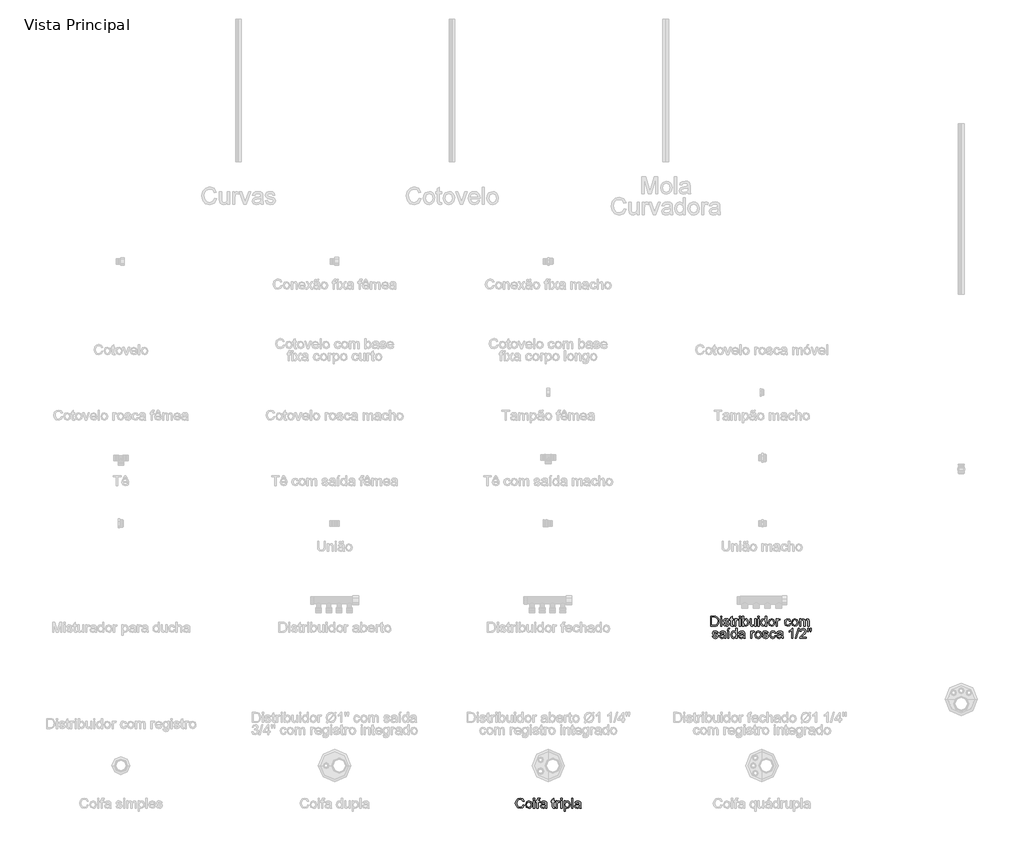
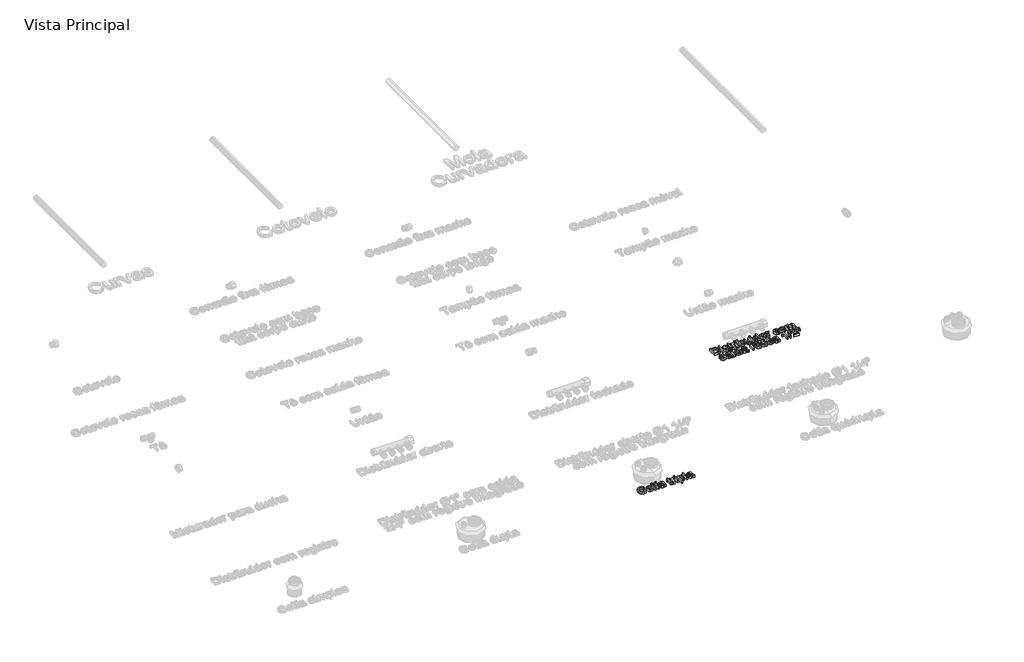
# One storey, part 8 of 12: 2 proxies.
"""IFC4 building model written with IfcOpenShell, lengths in millimetres."""

from ifc_helpers import new_model, si_unit, origin, origin_with_axes, place, context, project, spatial, polyline, outline, extrude, element, save

model = new_model("IFC4")

# Units and contexts
model_context = context("Model", 3, world=origin())
ifc_project = project(units=[si_unit("LENGTHUNIT", "METRE", prefix="MILLI")], contexts=[model_context])

# Site, building, storey
site = spatial("IfcSite", under=ifc_project)
building = spatial("IfcBuilding", under=site)
storey = spatial("IfcBuildingStorey", under=building, Name="Vista Principal", Elevation=0.0)

# Proxies
placement = place(None, origin())
element("IfcBuildingElementProxy", 1, Name="Legenda", ObjectType="Legenda", at=placement, inside=storey, context=model_context, shape_type="SweptSolid", body=[
    extrude(outline(polyline([(989.4929471, -1210.4212496), (989.4929471, -1175.261541), (1001.6220165, -1175.261541), (1007.896857, -1175.7679919), (1013.0643728, -1178.2830785), (1017.2275707, -1184.2918177), (1018.6095807, -1192.6525492), (1017.6739342, -1199.7471535), (1015.2704385, -1204.8674577), (1012.060055, -1208.0563815), (1007.8582294, -1209.8203756), (1002.2057226, -1210.4212496), (989.4929471, -1210.4212496)]), holes=[polyline([(993.8879107, -1206.026286), (1001.664936, -1206.026286), (1007.3217349, -1205.3910764), (1010.5836219, -1203.5970385), (1013.2575109, -1199.2321187), (1014.2146172, -1192.5838779), (1012.3390321, -1184.2574821), (1007.7766823, -1180.3603855), (1001.5447613, -1179.6565046), (993.8879107, -1179.6565046), (993.8879107, -1206.026286)])]), origin_with_axes(), (0.0, 0.0, 1.0), 10.0),
    extrude(outline(polyline([(1024.1032852, -1210.4212496), (1024.1032852, -1184.6008386), (1028.4982488, -1184.6008386), (1028.4982488, -1210.4212496), (1024.1032852, -1210.4212496)])), origin_with_axes(), (0.0, 0.0, 1.0), 10.0),
    extrude(outline(polyline([(1024.1032852, -1179.6565046), (1024.1032852, -1175.261541), (1028.4982488, -1175.261541), (1028.4982488, -1179.6565046), (1024.1032852, -1179.6565046)])), origin_with_axes(), (0.0, 0.0, 1.0), 10.0),
    extrude(outline(polyline([(1033.4425828, -1202.7300633), (1037.8375464, -1202.1806929), (1039.8719338, -1205.4425799), (1044.5329987, -1206.5756564), (1049.0138014, -1205.5370029), (1050.4730666, -1203.0991716), (1049.0052175, -1201.1248715), (1044.4814952, -1199.8716202), (1037.8632981, -1197.7213499), (1034.9748113, -1195.2105553), (1033.9919532, -1191.6653992), (1034.7816733, -1188.3906363), (1036.9362355, -1185.8884256), (1039.7302992, -1184.5879627), (1043.511513, -1184.0514681), (1048.8592909, -1184.9141514), (1052.2585206, -1187.2489758), (1053.7692893, -1191.1932839), (1049.3743257, -1191.7426544), (1047.7219224, -1189.3176989), (1043.8548695, -1188.4464317), (1039.648752, -1189.2790713), (1038.3869168, -1191.2190357), (1040.5500629, -1193.4680209), (1044.3355687, -1194.4036675), (1050.7863795, -1196.4723906), (1053.7821652, -1198.8157989), (1054.8680302, -1202.6356403), (1053.5933191, -1206.8417577), (1049.9151123, -1209.8933389), (1044.4729113, -1210.97062), (1036.8074768, -1208.893313), (1033.4425828, -1202.7300633)])), origin_with_axes(), (0.0, 0.0, 1.0), 10.0),
    extrude(outline(polyline([(1069.1516618, -1206.7559186), (1069.7010322, -1210.5500083), (1066.4133935, -1210.97062), (1062.7308947, -1210.2409874), (1060.8939373, -1208.3267747), (1060.3617346, -1203.3395212), (1060.3617346, -1188.9958022), (1057.065512, -1188.9958022), (1057.065512, -1184.6008386), (1060.3617346, -1184.6008386), (1060.3617346, -1178.325998), (1064.7566982, -1175.7422401), (1064.7566982, -1184.6008386), (1069.1516618, -1184.6008386), (1069.1516618, -1188.9958022), (1064.7566982, -1188.9958022), (1064.7566982, -1203.2107625), (1064.9884639, -1205.4769155), (1069.1516618, -1206.7559186)])), origin_with_axes(), (0.0, 0.0, 1.0), 10.0),
    extrude(outline(polyline([(1073.5466254, -1210.4212496), (1073.5466254, -1184.6008386), (1077.3922185, -1184.6008386), (1077.3922185, -1188.42068), (1080.1219029, -1184.9012756), (1082.8687551, -1184.0514681), (1087.2808865, -1185.4077264), (1085.8130373, -1189.3477426), (1082.7228286, -1188.4464317), (1080.2377857, -1189.3134069), (1078.6540537, -1191.7169027), (1077.9415889, -1196.8500828), (1077.9415889, -1210.4212496), (1073.5466254, -1210.4212496)])), origin_with_axes(), (0.0, 0.0, 1.0), 10.0),
    extrude(outline(polyline([(1090.0277387, -1210.4212496), (1090.0277387, -1184.6008386), (1094.4227023, -1184.6008386), (1094.4227023, -1210.4212496), (1090.0277387, -1210.4212496)])), origin_with_axes(), (0.0, 0.0, 1.0), 10.0),
    extrude(outline(polyline([(1090.0277387, -1179.6565046), (1090.0277387, -1175.261541), (1094.4227023, -1175.261541), (1094.4227023, -1179.6565046), (1090.0277387, -1179.6565046)])), origin_with_axes(), (0.0, 0.0, 1.0), 10.0),
    extrude(outline(polyline([(1105.4101112, -1210.4212496), (1101.0151477, -1210.4212496), (1101.0151477, -1175.261541), (1105.4101112, -1175.261541), (1105.4101112, -1188.3005052), (1112.3115775, -1184.0514681), (1116.7151249, -1185.0085745), (1120.1315224, -1187.6996313), (1122.2302892, -1191.884289), (1122.9899655, -1197.124768), (1119.8439613, -1207.3567925), (1112.2858257, -1210.97062), (1105.4101112, -1206.3095551), (1105.4101112, -1210.4212496)]), holes=[polyline([(1105.4101112, -1197.3307819), (1106.6118591, -1203.4768638), (1111.9081335, -1206.5756564), (1116.612118, -1204.2923355), (1118.5950019, -1197.4852923), (1116.6936652, -1190.6524974), (1112.0969796, -1188.4464317), (1107.3929952, -1190.7297526), (1105.4101112, -1197.3307819)])]), origin_with_axes(), (0.0, 0.0, 1.0), 10.0),
    extrude(outline(polyline([(1144.4154129, -1210.4212496), (1144.4154129, -1205.9833664), (1136.4838771, -1210.97062), (1132.3507229, -1210.0950609), (1129.5008637, -1207.8975791), (1128.1918169, -1204.6614438), (1127.9342995, -1200.5755011), (1127.9342995, -1184.6008386), (1132.3292631, -1184.6008386), (1132.3292631, -1198.506778), (1132.5953644, -1202.9875807), (1134.3336068, -1205.6185501), (1137.6083697, -1206.5756564), (1141.2779926, -1205.5970903), (1143.7029481, -1202.9317853), (1144.4154129, -1198.0346628), (1144.4154129, -1184.6008386), (1148.8103765, -1184.6008386), (1148.8103765, -1210.4212496), (1144.4154129, -1210.4212496)])), origin_with_axes(), (0.0, 0.0, 1.0), 10.0),
    extrude(outline(polyline([(1154.8534514, -1210.4212496), (1154.8534514, -1184.6008386), (1159.248415, -1184.6008386), (1159.248415, -1210.4212496), (1154.8534514, -1210.4212496)])), origin_with_axes(), (0.0, 0.0, 1.0), 10.0),
    extrude(outline(polyline([(1154.8534514, -1179.6565046), (1154.8534514, -1175.261541), (1159.248415, -1175.261541), (1159.248415, -1179.6565046), (1154.8534514, -1179.6565046)])), origin_with_axes(), (0.0, 0.0, 1.0), 10.0),
    extrude(outline(polyline([(1181.7726032, -1210.4212496), (1181.7726032, -1206.2752195), (1174.8453853, -1210.97062), (1169.4031843, -1209.2710052), (1165.5575912, -1204.5283931), (1164.192749, -1197.5367958), (1165.4502923, -1190.5409065), (1169.2186302, -1185.7253312), (1174.8282174, -1184.0514681), (1178.8798245, -1185.248924), (1181.7726032, -1188.3605926), (1181.7726032, -1175.261541), (1186.1675668, -1175.261541), (1186.1675668, -1210.4212496), (1181.7726032, -1210.4212496)]), holes=[polyline([(1168.5877125, -1197.519628), (1170.5705965, -1204.3223792), (1175.2488292, -1206.5756564), (1179.8712665, -1204.4253862), (1181.7726032, -1197.8544006), (1179.8369308, -1190.7211687), (1175.068567, -1188.4464317), (1170.4418378, -1190.6310376), (1168.5877125, -1197.519628)])]), origin_with_axes(), (0.0, 0.0, 1.0), 10.0),
    extrude(outline(polyline([(1191.6612713, -1197.5110441), (1195.4639448, -1186.9099112), (1203.2066346, -1184.0514681), (1211.5115706, -1187.532245), (1214.73483, -1197.1505197), (1213.3099004, -1204.9704647), (1209.1595784, -1209.3954719), (1203.2066346, -1210.97062), (1194.850195, -1207.5027191), (1191.6612713, -1197.5110441)]), holes=[polyline([(1196.0562348, -1197.5024602), (1198.0906223, -1204.3137953), (1203.2066346, -1206.5756564), (1208.305479, -1204.3009194), (1210.3398664, -1197.3651176), (1208.2926031, -1190.7082928), (1203.2066346, -1188.4464317), (1198.0906223, -1190.6997089), (1196.0562348, -1197.5024602)])]), origin_with_axes(), (0.0, 0.0, 1.0), 10.0),
    extrude(outline(polyline([(1219.679164, -1210.4212496), (1219.679164, -1184.6008386), (1223.5247572, -1184.6008386), (1223.5247572, -1188.42068), (1226.2544416, -1184.9012756), (1229.0012938, -1184.0514681), (1233.4134252, -1185.4077264), (1231.945576, -1189.3477426), (1228.8553673, -1188.4464317), (1226.3703244, -1189.3134069), (1224.7865924, -1191.7169027), (1224.0741276, -1196.8500828), (1224.0741276, -1210.4212496), (1219.679164, -1210.4212496)])), origin_with_axes(), (0.0, 0.0, 1.0), 10.0),
    extrude(outline(polyline([(1266.3756519, -1201.081952), (1270.7706155, -1201.6313224), (1267.2426272, -1208.494161), (1260.2724896, -1210.97062), (1251.9418019, -1207.5155949), (1248.7957977, -1197.6054671), (1250.1391801, -1190.3048489), (1254.2337067, -1185.6137404), (1260.2124023, -1184.0514681), (1266.8949787, -1186.1974464), (1270.2212451, -1192.2920248), (1265.8262815, -1192.8413953), (1263.7876021, -1189.5494646), (1260.2467379, -1188.4464317), (1255.1521854, -1190.6181618), (1253.1907612, -1197.4852923), (1255.1092658, -1204.4168023), (1260.1265631, -1206.5756564), (1264.2683013, -1205.2279821), (1266.3756519, -1201.081952)])), origin_with_axes(), (0.0, 0.0, 1.0), 10.0),
    extrude(outline(polyline([(1273.5174677, -1197.5110441), (1277.3201413, -1186.9099112), (1285.062831, -1184.0514681), (1293.3677671, -1187.532245), (1296.5910265, -1197.1505197), (1295.1660969, -1204.9704647), (1291.0157748, -1209.3954719), (1285.062831, -1210.97062), (1276.7063915, -1207.5027191), (1273.5174677, -1197.5110441)]), holes=[polyline([(1277.9124313, -1197.5024602), (1279.9468188, -1204.3137953), (1285.062831, -1206.5756564), (1290.1616755, -1204.3009194), (1292.1960629, -1197.3651176), (1290.1487996, -1190.7082928), (1285.062831, -1188.4464317), (1279.9468188, -1190.6997089), (1277.9124313, -1197.5024602)])]), origin_with_axes(), (0.0, 0.0, 1.0), 10.0),
    extrude(outline(polyline([(1301.5353605, -1210.4212496), (1301.5353605, -1184.6008386), (1305.9303241, -1184.6008386), (1305.9303241, -1188.8498756), (1308.9518615, -1185.3690988), (1313.252402, -1184.0514681), (1317.6559495, -1185.3948506), (1320.0766131, -1189.1588965), (1327.8364706, -1184.0514681), (1333.5834005, -1186.1759867), (1335.5963282, -1192.7212205), (1335.5963282, -1210.4212496), (1331.2013646, -1210.4212496), (1331.2013646, -1194.6096814), (1330.7936287, -1190.9400585), (1329.3171956, -1189.1331448), (1326.806401, -1188.4464317), (1322.4844007, -1190.2061339), (1320.7633261, -1195.8457649), (1320.7633261, -1210.4212496), (1316.3683625, -1210.4212496), (1316.3683625, -1194.1203984), (1315.3511688, -1189.8627774), (1312.0163185, -1188.4464317), (1308.7630154, -1189.3906622), (1306.5998693, -1192.1546822), (1305.9303241, -1197.3994532), (1305.9303241, -1210.4212496), (1301.5353605, -1210.4212496)])), origin_with_axes(), (0.0, 0.0, 1.0), 10.0),
    extrude(outline(polyline([(994.9866516, -1245.4212496), (999.3816151, -1244.8718791), (1001.4160026, -1248.1337661), (1006.0770674, -1249.2668427), (1010.5578701, -1248.2281892), (1012.0171354, -1245.7903578), (1010.5492862, -1243.8160578), (1006.025564, -1242.5628065), (999.4073669, -1240.4125362), (996.5188801, -1237.9017416), (995.536022, -1234.3565854), (996.325742, -1231.0818225), (998.4803042, -1228.5796118), (1001.274368, -1227.279149), (1005.0555818, -1226.7426544), (1010.4033597, -1227.6053377), (1013.8025893, -1229.9401621), (1015.3133581, -1233.8844702), (1010.9183945, -1234.4338406), (1009.2659912, -1232.0088852), (1005.3989383, -1231.137618), (1001.1928208, -1231.9702575), (999.9309856, -1233.9102219), (1002.0941317, -1236.1592072), (1005.8796374, -1237.0948537), (1012.3304482, -1239.1635768), (1015.3262339, -1241.5069851), (1016.412099, -1245.3268265), (1015.1373878, -1249.532944), (1011.459181, -1252.5845251), (1006.01698, -1253.6618063), (998.3515455, -1251.5844993), (994.9866516, -1245.4212496)])), origin_with_axes(), (0.0, 0.0, 1.0), 10.0),
    extrude(outline(polyline([(1037.8375464, -1249.8162131), (1033.5756334, -1252.794831), (1028.867357, -1253.6618063), (1022.4852176, -1251.5759153), (1020.2576921, -1246.2453052), (1021.0989156, -1242.7688204), (1023.3092732, -1240.2451499), (1026.3866061, -1238.8030525), (1030.1892797, -1238.1420911), (1037.8117946, -1236.6313224), (1036.6272146, -1232.4080371), (1031.7687197, -1231.137618), (1027.3222527, -1231.9831334), (1025.2020261, -1234.9832111), (1020.8070625, -1234.4338406), (1022.7083993, -1230.141884), (1026.5368246, -1227.6267975), (1032.335258, -1226.7426544), (1037.6615761, -1227.5237905), (1040.6702377, -1229.4852147), (1042.0179121, -1232.4681245), (1042.2325099, -1236.3137176), (1042.2325099, -1241.7816704), (1042.4556917, -1249.4170612), (1043.3312508, -1253.1124358), (1038.9362873, -1253.1124358), (1037.8375464, -1249.8162131)]), holes=[polyline([(1037.8246705, -1241.6486197), (1030.747234, -1242.3739604), (1026.9660203, -1243.0864252), (1025.2535296, -1244.2452534), (1024.6526557, -1245.9362844), (1025.9617024, -1248.3140283), (1029.8030036, -1249.2668427), (1034.2494706, -1248.2153133), (1037.1164976, -1245.670183), (1037.8246705, -1241.6486197)])]), origin_with_axes(), (0.0, 0.0, 1.0), 10.0),
    extrude(outline(polyline([(1049.3743257, -1253.1124358), (1049.3743257, -1227.2920248), (1053.7692893, -1227.2920248), (1053.7692893, -1253.1124358), (1049.3743257, -1253.1124358)])), origin_with_axes(), (0.0, 0.0, 1.0), 10.0),
    extrude(outline(polyline([(1048.2755848, -1224.5451726), (1051.5718075, -1217.9527273), (1057.065512, -1217.9527273), (1051.5718075, -1224.5451726), (1048.2755848, -1224.5451726)])), origin_with_axes(), (0.0, 0.0, 1.0), 10.0),
    extrude(outline(polyline([(1077.9415889, -1253.1124358), (1077.9415889, -1248.9664057), (1071.014371, -1253.6618063), (1065.57217, -1251.9621914), (1061.7265769, -1247.2195794), (1060.3617346, -1240.2279821), (1061.6192779, -1233.2320928), (1065.3876158, -1228.4165175), (1070.9972031, -1226.7426544), (1075.0488102, -1227.9401103), (1077.9415889, -1231.0517788), (1077.9415889, -1217.9527273), (1082.3365525, -1217.9527273), (1082.3365525, -1253.1124358), (1077.9415889, -1253.1124358)]), holes=[polyline([(1064.7566982, -1240.2108142), (1066.7395822, -1247.0135655), (1071.4178149, -1249.2668427), (1076.0402521, -1247.1165724), (1077.9415889, -1240.5455868), (1076.0059165, -1233.412355), (1071.2375527, -1231.137618), (1066.6108235, -1233.3222239), (1064.7566982, -1240.2108142)])]), origin_with_axes(), (0.0, 0.0, 1.0), 10.0),
    extrude(outline(polyline([(1105.4101112, -1249.8162131), (1101.1481983, -1252.794831), (1096.4399219, -1253.6618063), (1090.0577824, -1251.5759153), (1087.830257, -1246.2453052), (1088.6714805, -1242.7688204), (1090.8818381, -1240.2451499), (1093.959171, -1238.8030525), (1097.7618446, -1238.1420911), (1105.3843595, -1236.6313224), (1104.1997795, -1232.4080371), (1099.3412846, -1231.137618), (1094.8948175, -1231.9831334), (1092.774591, -1234.9832111), (1088.3796274, -1234.4338406), (1090.2809642, -1230.141884), (1094.1093895, -1227.6267975), (1099.9078229, -1226.7426544), (1105.234141, -1227.5237905), (1108.2428026, -1229.4852147), (1109.590477, -1232.4681245), (1109.8050748, -1236.3137176), (1109.8050748, -1241.7816704), (1110.0282565, -1249.4170612), (1110.9038157, -1253.1124358), (1106.5088521, -1253.1124358), (1105.4101112, -1249.8162131)]), holes=[polyline([(1105.3972354, -1241.6486197), (1098.3197989, -1242.3739604), (1094.5385851, -1243.0864252), (1092.8260945, -1244.2452534), (1092.2252205, -1245.9362844), (1093.5342673, -1248.3140283), (1097.3755685, -1249.2668427), (1101.8220355, -1248.2153133), (1104.6890625, -1245.670183), (1105.3972354, -1241.6486197)])]), origin_with_axes(), (0.0, 0.0, 1.0), 10.0),
    extrude(outline(polyline([(1129.5824109, -1253.1124358), (1129.5824109, -1227.2920248), (1133.428004, -1227.2920248), (1133.428004, -1231.1118662), (1136.1576884, -1227.5924618), (1138.9045406, -1226.7426544), (1143.316672, -1228.0989127), (1141.8488229, -1232.0389288), (1138.7586141, -1231.137618), (1136.2735712, -1232.0045932), (1134.6898392, -1234.4080889), (1133.9773744, -1239.541269), (1133.9773744, -1253.1124358), (1129.5824109, -1253.1124358)])), origin_with_axes(), (0.0, 0.0, 1.0), 10.0),
    extrude(outline(polyline([(1144.9647834, -1240.2022303), (1148.7674569, -1229.6010975), (1156.5101466, -1226.7426544), (1164.8150827, -1230.2234312), (1168.0383421, -1239.841706), (1166.6134125, -1247.6616509), (1162.4630905, -1252.0866582), (1156.5101466, -1253.6618063), (1148.1537071, -1250.1939053), (1144.9647834, -1240.2022303)]), holes=[polyline([(1149.3597469, -1240.1936464), (1151.3941344, -1247.0049815), (1156.5101466, -1249.2668427), (1161.6089911, -1246.9921057), (1163.6433785, -1240.0563038), (1161.5961152, -1233.3994791), (1156.5101466, -1231.137618), (1151.3941344, -1233.3908952), (1149.3597469, -1240.1936464)])]), origin_with_axes(), (0.0, 0.0, 1.0), 10.0),
    extrude(outline(polyline([(1171.3345648, -1245.4212496), (1175.7295283, -1244.8718791), (1177.7639158, -1248.1337661), (1182.4249806, -1249.2668427), (1186.9057834, -1248.2281892), (1188.3650486, -1245.7903578), (1186.8971994, -1243.8160578), (1182.3734772, -1242.5628065), (1175.7552801, -1240.4125362), (1172.8667933, -1237.9017416), (1171.8839352, -1234.3565854), (1172.6736552, -1231.0818225), (1174.8282174, -1228.5796118), (1177.6222812, -1227.279149), (1181.403495, -1226.7426544), (1186.7512729, -1227.6053377), (1190.1505025, -1229.9401621), (1191.6612713, -1233.8844702), (1187.2663077, -1234.4338406), (1185.6139044, -1232.0088852), (1181.7468515, -1231.137618), (1177.540734, -1231.9702575), (1176.2788988, -1233.9102219), (1178.4420449, -1236.1592072), (1182.2275506, -1237.0948537), (1188.6783614, -1239.1635768), (1191.6741471, -1241.5069851), (1192.7600122, -1245.3268265), (1191.4853011, -1249.532944), (1187.8070942, -1252.5845251), (1182.3648933, -1253.6618063), (1174.6994588, -1251.5844993), (1171.3345648, -1245.4212496)])), origin_with_axes(), (0.0, 0.0, 1.0), 10.0),
    extrude(outline(polyline([(1214.1854596, -1243.7731382), (1218.5804231, -1244.3225087), (1215.0524348, -1251.1853473), (1208.0822973, -1253.6618063), (1199.7516095, -1250.2067812), (1196.6056053, -1240.2966534), (1197.9489877, -1232.9960352), (1202.0435143, -1228.3049266), (1208.0222099, -1226.7426544), (1214.7047863, -1228.8886327), (1218.0310527, -1234.9832111), (1213.6360891, -1235.5325815), (1211.5974097, -1232.2406508), (1208.0565455, -1231.137618), (1202.961993, -1233.309348), (1201.0005689, -1240.1764786), (1202.9190735, -1247.1079885), (1207.9363707, -1249.2668427), (1212.0781089, -1247.9191683), (1214.1854596, -1243.7731382)])), origin_with_axes(), (0.0, 0.0, 1.0), 10.0),
    extrude(outline(polyline([(1238.9071296, -1249.8162131), (1234.6452167, -1252.794831), (1229.9369403, -1253.6618063), (1223.5548008, -1251.5759153), (1221.3272754, -1246.2453052), (1222.1684989, -1242.7688204), (1224.3788565, -1240.2451499), (1227.4561894, -1238.8030525), (1231.258863, -1238.1420911), (1238.8813779, -1236.6313224), (1237.6967979, -1232.4080371), (1232.838303, -1231.137618), (1228.3918359, -1231.9831334), (1226.2716094, -1234.9832111), (1221.8766458, -1234.4338406), (1223.7779826, -1230.141884), (1227.6064079, -1227.6267975), (1233.4048413, -1226.7426544), (1238.7311594, -1227.5237905), (1241.739821, -1229.4852147), (1243.0874954, -1232.4681245), (1243.3020932, -1236.3137176), (1243.3020932, -1241.7816704), (1243.525275, -1249.4170612), (1244.4008341, -1253.1124358), (1240.0058705, -1253.1124358), (1238.9071296, -1249.8162131)]), holes=[polyline([(1238.8942538, -1241.6486197), (1231.8168173, -1242.3739604), (1228.0356035, -1243.0864252), (1226.3231129, -1244.2452534), (1225.7222389, -1245.9362844), (1227.0312857, -1248.3140283), (1230.8725869, -1249.2668427), (1235.3190539, -1248.2153133), (1238.1860809, -1245.670183), (1238.8942538, -1241.6486197)])]), origin_with_axes(), (0.0, 0.0, 1.0), 10.0),
    extrude(outline(polyline([(1278.4618018, -1253.1124358), (1274.0668382, -1253.1124358), (1274.0668382, -1225.7125848), (1269.9036403, -1228.6783268), (1265.2769111, -1230.8972684), (1265.2769111, -1226.7426544), (1271.7191379, -1222.63096), (1275.6291104, -1217.9527273), (1278.4618018, -1217.9527273), (1278.4618018, -1253.1124358)])), origin_with_axes(), (0.0, 0.0, 1.0), 10.0),
    extrude(outline(polyline([(1286.7023585, -1253.1124358), (1296.5910265, -1217.9527273), (1300.5567944, -1217.9527273), (1290.6681264, -1253.1124358), (1286.7023585, -1253.1124358)])), origin_with_axes(), (0.0, 0.0, 1.0), 10.0),
    extrude(outline(polyline([(1325.1582897, -1248.7174722), (1325.1582897, -1253.1124358), (1302.0847309, -1253.1124358), (1302.5568462, -1250.0823144), (1305.2264432, -1245.4169576), (1310.7287316, -1240.3224051), (1318.3169108, -1233.0003271), (1320.2139557, -1228.0216575), (1318.4242098, -1223.9915102), (1313.750269, -1222.3476908), (1308.8788983, -1223.9528826), (1307.029065, -1228.3907657), (1302.6341014, -1227.8413953), (1306.0032873, -1220.4849817), (1313.8446921, -1217.9527273), (1321.7118485, -1220.7682508), (1324.6089192, -1227.7555562), (1323.8277831, -1231.923046), (1321.2311494, -1236.2321705), (1314.934849, -1242.2537856), (1309.8789242, -1246.4813628), (1307.8960402, -1248.7174722), (1325.1582897, -1248.7174722)])), origin_with_axes(), (0.0, 0.0, 1.0), 10.0),
    extrude(outline(polyline([(1330.6262424, -1230.5882475), (1329.5532533, -1223.7983722), (1329.5532533, -1217.9527273), (1333.9482168, -1217.9527273), (1333.9482168, -1223.7983722), (1332.9868185, -1230.5882475), (1330.6262424, -1230.5882475)])), origin_with_axes(), (0.0, 0.0, 1.0), 10.0),
    extrude(outline(polyline([(1339.3904178, -1230.5882475), (1338.3431804, -1223.7983722), (1338.3431804, -1217.9527273), (1342.738144, -1217.9527273), (1342.738144, -1223.7983722), (1341.7080744, -1230.5882475), (1339.3904178, -1230.5882475)])), origin_with_axes(), (0.0, 0.0, 1.0), 10.0),
])
element("IfcBuildingElementProxy", 2, Name="Legenda", ObjectType="Legenda", at=placement, inside=storey, context=model_context, shape_type="SweptSolid", body=[
    extrude(outline(polyline([(330.6884412, -1837.168665), (335.0834047, -1838.3017416), (329.8729694, -1847.164632), (320.6710144, -1850.2162131), (311.5248549, -1847.9071405), (306.1599091, -1841.2202721), (304.3186597, -1831.8208871), (306.4002587, -1822.2669917), (312.3188669, -1816.0736983), (320.7654375, -1813.9577637), (329.5682405, -1816.696032), (334.5340343, -1824.4043861), (330.1390707, -1825.4516235), (326.5338272, -1820.0480501), (320.5937592, -1818.3527273), (313.7180447, -1820.2326042), (309.833824, -1825.2799452), (308.7136233, -1831.8123032), (310.0398379, -1839.3833146), (314.1687002, -1844.2203497), (320.2332349, -1845.8212496), (326.9587309, -1843.6409356), (330.6884412, -1837.168665)])), origin_with_axes(), (0.0, 0.0, 1.0), 10.0),
    extrude(outline(polyline([(339.4783683, -1836.7566372), (343.2810419, -1826.1555044), (351.0237316, -1823.2970613), (359.3286676, -1826.7778381), (362.551927, -1836.3961128), (361.1269974, -1844.2160578), (356.9766754, -1848.6410651), (351.0237316, -1850.2162131), (342.6672921, -1846.7483122), (339.4783683, -1836.7566372)]), holes=[polyline([(343.8733319, -1836.7480533), (345.9077193, -1843.5593884), (351.0237316, -1845.8212496), (356.122576, -1843.5465126), (358.1569635, -1836.6107107), (356.1097002, -1829.953886), (351.0237316, -1827.6920248), (345.9077193, -1829.9453021), (343.8733319, -1836.7480533)])]), origin_with_axes(), (0.0, 0.0, 1.0), 10.0),
    extrude(outline(polyline([(367.496261, -1849.6668427), (367.496261, -1823.8464317), (371.8912246, -1823.8464317), (371.8912246, -1849.6668427), (367.496261, -1849.6668427)])), origin_with_axes(), (0.0, 0.0, 1.0), 10.0),
    extrude(outline(polyline([(367.496261, -1818.9020977), (367.496261, -1814.5071341), (371.8912246, -1814.5071341), (371.8912246, -1818.9020977), (367.496261, -1818.9020977)])), origin_with_axes(), (0.0, 0.0, 1.0), 10.0),
    extrude(outline(polyline([(379.5824109, -1849.6668427), (379.5824109, -1828.2413953), (375.7368177, -1828.2413953), (375.7368177, -1823.8464317), (379.5824109, -1823.8464317), (379.5824109, -1821.245506), (380.0459422, -1817.5801751), (382.2949274, -1814.9620815), (386.7242267, -1813.9577637), (390.7329141, -1814.4384628), (390.0891206, -1818.5587412), (387.5568662, -1818.3527273), (384.7885542, -1819.0823599), (383.9773744, -1821.8034604), (383.9773744, -1823.8464317), (388.9217084, -1823.8464317), (388.9217084, -1828.2413953), (383.9773744, -1828.2413953), (383.9773744, -1849.6668427), (379.5824109, -1849.6668427)])), origin_with_axes(), (0.0, 0.0, 1.0), 10.0),
    extrude(outline(polyline([(409.248415, -1846.37062), (404.986502, -1849.3492379), (400.2782256, -1850.2162131), (393.8960862, -1848.1303222), (391.6685607, -1842.7997121), (392.5097842, -1839.3232273), (394.7201418, -1836.7995568), (397.7974747, -1835.3574593), (401.6001483, -1834.696498), (409.2226632, -1833.1857293), (408.0380832, -1828.962444), (403.1795883, -1827.6920248), (398.7331213, -1828.5375403), (396.6128947, -1831.537618), (392.2179311, -1830.9882475), (394.1192679, -1826.6962909), (397.9476932, -1824.1812043), (403.7461266, -1823.2970613), (409.0724447, -1824.0781974), (412.0811063, -1826.0396215), (413.4287807, -1829.0225314), (413.6433785, -1832.8681245), (413.6433785, -1838.3360772), (413.8665603, -1845.971468), (414.7421194, -1849.6668427), (410.3471558, -1849.6668427), (409.248415, -1846.37062)]), holes=[polyline([(409.2355391, -1838.2030266), (402.1581026, -1838.9283672), (398.3768889, -1839.640832), (396.6643982, -1840.7996603), (396.0635242, -1842.4906912), (397.372571, -1844.8684352), (401.2138722, -1845.8212496), (405.6603392, -1844.7697202), (408.5273662, -1842.2245899), (409.2355391, -1838.2030266)])]), origin_with_axes(), (0.0, 0.0, 1.0), 10.0),
    extrude(outline(polyline([(442.7600122, -1846.0015117), (443.3093826, -1849.7956014), (440.0217438, -1850.2162131), (436.3392451, -1849.4865805), (434.5022876, -1847.5723679), (433.970085, -1842.5851143), (433.970085, -1828.2413953), (430.6738624, -1828.2413953), (430.6738624, -1823.8464317), (433.970085, -1823.8464317), (433.970085, -1817.5715911), (438.3650486, -1814.9878333), (438.3650486, -1823.8464317), (442.7600122, -1823.8464317), (442.7600122, -1828.2413953), (438.3650486, -1828.2413953), (438.3650486, -1842.4563556), (438.5968143, -1844.7225087), (442.7600122, -1846.0015117)])), origin_with_axes(), (0.0, 0.0, 1.0), 10.0),
    extrude(outline(polyline([(447.1549757, -1849.6668427), (447.1549757, -1823.8464317), (451.0005689, -1823.8464317), (451.0005689, -1827.6662731), (453.7302533, -1824.1468687), (456.4771055, -1823.2970613), (460.8892369, -1824.6533196), (459.4213877, -1828.5933357), (456.331179, -1827.6920248), (453.8461361, -1828.5590001), (452.2624041, -1830.9624958), (451.5499393, -1836.0956759), (451.5499393, -1849.6668427), (447.1549757, -1849.6668427)])), origin_with_axes(), (0.0, 0.0, 1.0), 10.0),
    extrude(outline(polyline([(463.6360891, -1818.9020977), (463.6360891, -1814.5071341), (468.0310527, -1814.5071341), (468.0310527, -1818.9020977), (463.6360891, -1818.9020977)])), origin_with_axes(), (0.0, 0.0, 1.0), 10.0),
    extrude(outline(polyline([(463.6360891, -1849.6668427), (463.6360891, -1823.8464317), (468.0310527, -1823.8464317), (468.0310527, -1849.6668427), (463.6360891, -1849.6668427)])), origin_with_axes(), (0.0, 0.0, 1.0), 10.0),
    extrude(outline(polyline([(474.623498, -1859.5555107), (474.623498, -1823.8464317), (479.0184616, -1823.8464317), (479.0184616, -1828.1555562), (482.0571669, -1824.511685), (486.1602774, -1823.2970613), (491.7312371, -1824.9966761), (495.3708163, -1829.7864997), (496.5983159, -1836.5592072), (495.2120139, -1843.6795632), (491.1861586, -1848.5294742), (485.6280748, -1850.2162131), (481.8039415, -1849.0874285), (479.0184616, -1846.2332774), (479.0184616, -1859.5555107), (474.623498, -1859.5555107)]), holes=[polyline([(479.0184616, -1836.9626511), (480.9197984, -1843.6581034), (485.5336517, -1845.8212496), (490.2419281, -1843.5808482), (492.2033523, -1836.6364624), (490.2891397, -1829.9238423), (485.7139139, -1827.6920248), (481.0485571, -1830.0654768), (479.0184616, -1836.9626511)])]), origin_with_axes(), (0.0, 0.0, 1.0), 10.0),
    extrude(outline(polyline([(501.5426499, -1849.6668427), (501.5426499, -1814.5071341), (505.9376135, -1814.5071341), (505.9376135, -1849.6668427), (501.5426499, -1849.6668427)])), origin_with_axes(), (0.0, 0.0, 1.0), 10.0),
    extrude(outline(polyline([(529.0111722, -1846.37062), (524.7492593, -1849.3492379), (520.0409829, -1850.2162131), (513.6588434, -1848.1303222), (511.4313179, -1842.7997121), (512.2725414, -1839.3232273), (514.4828991, -1836.7995568), (517.560232, -1835.3574593), (521.3629055, -1834.696498), (528.9854205, -1833.1857293), (527.8008404, -1828.962444), (522.9423456, -1827.6920248), (518.4958785, -1828.5375403), (516.3756519, -1831.537618), (511.9806884, -1830.9882475), (513.8820252, -1826.6962909), (517.7104505, -1824.1812043), (523.5088838, -1823.2970613), (528.835202, -1824.0781974), (531.8438636, -1826.0396215), (533.1915379, -1829.0225314), (533.4061358, -1832.8681245), (533.4061358, -1838.3360772), (533.6293175, -1845.971468), (534.5048767, -1849.6668427), (530.1099131, -1849.6668427), (529.0111722, -1846.37062)]), holes=[polyline([(528.9982963, -1838.2030266), (521.9208599, -1838.9283672), (518.1396461, -1839.640832), (516.4271554, -1840.7996603), (515.8262815, -1842.4906912), (517.1353283, -1844.8684352), (520.9766294, -1845.8212496), (525.4230965, -1844.7697202), (528.2901235, -1842.2245899), (528.9982963, -1838.2030266)])]), origin_with_axes(), (0.0, 0.0, 1.0), 10.0),
])

save(model, "model.ifc")
